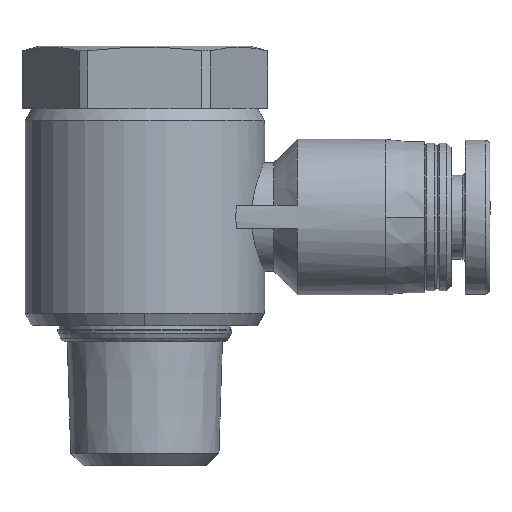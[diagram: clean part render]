
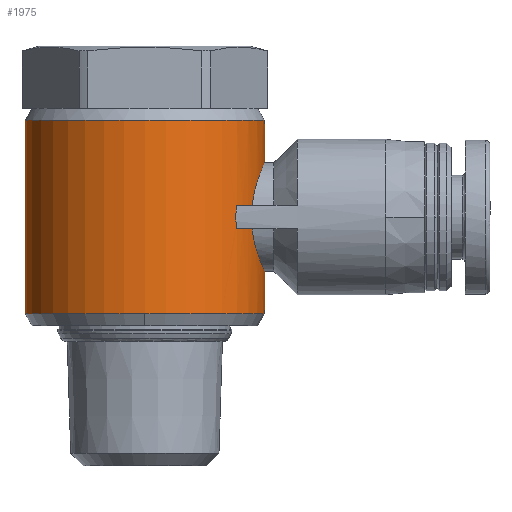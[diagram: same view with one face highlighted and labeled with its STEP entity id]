
A CAD part, front view. The second image highlights one B-rep face of the part: STEP entity #1975.
In plain terms, the highlighted cylindrical face has radius 7.7 mm (diameter 15.4 mm), a partial arc.
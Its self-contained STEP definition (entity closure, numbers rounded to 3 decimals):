
#6 = CIRCLE ( 'NONE', #594, 7.7 ) ;
#33 = B_SPLINE_CURVE_WITH_KNOTS ( 'NONE', 3,
 ( #1835, #1759, #918, #975 ),
 .UNSPECIFIED., .F., .F.,
 ( 4, 4 ),
 ( 0., 0.002 ),
 .UNSPECIFIED. ) ;
#46 = CARTESIAN_POINT ( 'NONE',  ( 7.7, -0.203, 12.5 ) ) ;
#69 = CYLINDRICAL_SURFACE ( 'NONE', #2171, 7.7 ) ;
#145 = CARTESIAN_POINT ( 'NONE',  ( 0., 0., 9.779 ) ) ;
#197 = DIRECTION ( 'NONE',  ( 1., 0., 0. ) ) ;
#214 = ORIENTED_EDGE ( 'NONE', *, *, #893, .T. ) ;
#281 = DIRECTION ( 'NONE',  ( 0., 0., 1. ) ) ;
#282 = ORIENTED_EDGE ( 'NONE', *, *, #2119, .T. ) ;
#292 = VERTEX_POINT ( 'NONE', #873 ) ;
#358 = ORIENTED_EDGE ( 'NONE', *, *, #993, .F. ) ;
#361 = CARTESIAN_POINT ( 'NONE',  ( 7.551, -1.554, 19.162 ) ) ;
#371 = CARTESIAN_POINT ( 'NONE',  ( 0., 0., 9.779 ) ) ;
#415 = CARTESIAN_POINT ( 'NONE',  ( 7.7, -0.406, 19.5 ) ) ;
#447 = CARTESIAN_POINT ( 'NONE',  ( 7.287, -2.507, 18.473 ) ) ;
#449 = DIRECTION ( 'NONE',  ( 0., 0., 1. ) ) ;
#453 = CARTESIAN_POINT ( 'NONE',  ( 6.899, -3.419, 15.25 ) ) ;
#471 = CIRCLE ( 'NONE', #2035, 7.7 ) ;
#507 = CARTESIAN_POINT ( 'NONE',  ( 6.921, -3.375, 15.053 ) ) ;
#522 = CARTESIAN_POINT ( 'NONE',  ( -7.7, 0., 22.221 ) ) ;
#535 = AXIS2_PLACEMENT_3D ( 'NONE', #371, #281, #197 ) ;
#539 = DIRECTION ( 'NONE',  ( 0., 0., 1. ) ) ;
#544 = CARTESIAN_POINT ( 'NONE',  ( 6.942, -3.332, 17.144 ) ) ;
#552 = DIRECTION ( 'NONE',  ( 0., 0., 1. ) ) ;
#564 = EDGE_CURVE ( 'NONE', #2552, #2480, #1888, .T. ) ;
#588 = VERTEX_POINT ( 'NONE', #2197 ) ;
#594 = AXIS2_PLACEMENT_3D ( 'NONE', #2178, #2166, #2131 ) ;
#617 = VERTEX_POINT ( 'NONE', #1977 ) ;
#654 = VECTOR ( 'NONE', #539, 1000. ) ;
#667 = CARTESIAN_POINT ( 'NONE',  ( 7.7, 0., 9.779 ) ) ;
#682 = CARTESIAN_POINT ( 'NONE',  ( 7.668, -0.798, 19.431 ) ) ;
#685 = EDGE_CURVE ( 'NONE', #1696, #617, #836, .T. ) ;
#686 = CARTESIAN_POINT ( 'NONE',  ( 6.95, -3.316, 14.862 ) ) ;
#702 = CARTESIAN_POINT ( 'NONE',  ( 7.47, -1.895, 18.969 ) ) ;
#750 = CARTESIAN_POINT ( 'NONE',  ( 7.019, -3.167, 14.497 ) ) ;
#761 = AXIS2_PLACEMENT_3D ( 'NONE', #2107, #2124, #2081 ) ;
#780 = CARTESIAN_POINT ( 'NONE',  ( 7.192, -2.754, 13.831 ) ) ;
#836 = CIRCLE ( 'NONE', #535, 7.7 ) ;
#873 = CARTESIAN_POINT ( 'NONE',  ( 5.904, -4.943, 15.25 ) ) ;
#885 = CARTESIAN_POINT ( 'NONE',  ( 7.145, -2.872, 13.99 ) ) ;
#893 = EDGE_CURVE ( 'NONE', #2969, #1696, #471, .T. ) ;
#918 = CARTESIAN_POINT ( 'NONE',  ( 5.84, -5.019, 15.75 ) ) ;
#933 = CARTESIAN_POINT ( 'NONE',  ( 7.467, -1.887, 13.046 ) ) ;
#975 = CARTESIAN_POINT ( 'NONE',  ( 5.904, -4.943, 15.25 ) ) ;
#993 = EDGE_CURVE ( 'NONE', #588, #292, #33, .T. ) ;
#1009 = EDGE_CURVE ( 'NONE', #2627, #2375, #2613, .T. ) ;
#1011 = ORIENTED_EDGE ( 'NONE', *, *, #2031, .T. ) ;
#1063 = CARTESIAN_POINT ( 'NONE',  ( 7.015, -3.183, 17.509 ) ) ;
#1067 = CARTESIAN_POINT ( 'NONE',  ( 7.286, -2.496, 13.539 ) ) ;
#1086 = ORIENTED_EDGE ( 'NONE', *, *, #564, .T. ) ;
#1090 = CARTESIAN_POINT ( 'NONE',  ( 7.423, -2.051, 13.157 ) ) ;
#1103 = CARTESIAN_POINT ( 'NONE',  ( 7.333, -2.356, 13.404 ) ) ;
#1126 = VECTOR ( 'NONE', #552, 1000. ) ;
#1141 = EDGE_CURVE ( 'NONE', #2149, #2447, #1803, .T. ) ;
#1183 = CARTESIAN_POINT ( 'NONE',  ( 7.546, -1.545, 12.853 ) ) ;
#1203 = CARTESIAN_POINT ( 'NONE',  ( 7.58, -1.365, 12.771 ) ) ;
#1214 = LINE ( 'NONE', #2922, #1126 ) ;
#1266 = CARTESIAN_POINT ( 'NONE',  ( 7.639, -0.989, 12.637 ) ) ;
#1306 = LINE ( 'NONE', #667, #654 ) ;
#1312 = CARTESIAN_POINT ( 'NONE',  ( 7.692, -0.402, 12.517 ) ) ;
#1322 = CARTESIAN_POINT ( 'NONE',  ( 7.661, -0.795, 12.586 ) ) ;
#1337 = EDGE_CURVE ( 'NONE', #2375, #2552, #1214, .T. ) ;
#1338 = CARTESIAN_POINT ( 'NONE',  ( 7.7, 0., 12.5 ) ) ;
#1343 = FACE_OUTER_BOUND ( 'NONE', #1699, .T. ) ;
#1411 = CARTESIAN_POINT ( 'NONE',  ( -7.7, 0., 9.779 ) ) ;
#1444 = EDGE_CURVE ( 'NONE', #2969, #2480, #2139, .T. ) ;
#1483 = CARTESIAN_POINT ( 'NONE',  ( 6.899, -3.419, 16.75 ) ) ;
#1510 = DIRECTION ( 'NONE',  ( 0., 0., -1. ) ) ;
#1511 = ORIENTED_EDGE ( 'NONE', *, *, #685, .T. ) ;
#1527 = CARTESIAN_POINT ( 'NONE',  ( 7.7, 0., 12.5 ) ) ;
#1532 = CARTESIAN_POINT ( 'NONE',  ( 7.7, 0., 19.5 ) ) ;
#1567 = CARTESIAN_POINT ( 'NONE',  ( 6.899, -3.419, 16.75 ) ) ;
#1582 = ORIENTED_EDGE ( 'NONE', *, *, #1141, .T. ) ;
#1607 = AXIS2_PLACEMENT_3D ( 'NONE', #2930, #1510, #1743 ) ;
#1618 = CARTESIAN_POINT ( 'NONE',  ( 0., -7.7, 9.779 ) ) ;
#1679 = CIRCLE ( 'NONE', #1607, 7.7 ) ;
#1696 = VERTEX_POINT ( 'NONE', #1618 ) ;
#1699 = EDGE_LOOP ( 'NONE', ( #2721, #214, #1511, #282, #1582, #2260, #358, #1011, #2326, #2932, #1086 ) ) ;
#1743 = DIRECTION ( 'NONE',  ( 1., 0., 0. ) ) ;
#1759 = CARTESIAN_POINT ( 'NONE',  ( 5.84, -5.019, 16.25 ) ) ;
#1793 = EDGE_CURVE ( 'NONE', #2447, #292, #1679, .T. ) ;
#1803 = B_SPLINE_CURVE_WITH_KNOTS ( 'NONE', 3,
 ( #1338, #46, #1312, #1322, #1266, #1203, #1183, #933, #1090, #1103, #1067, #780, #885, #1847, #750, #686, #507, #453 ),
 .UNSPECIFIED., .F., .F.,
 ( 4, 2, 2, 2, 2, 2, 2, 2, 4 ),
 ( 0.005, 0.005, 0.006, 0.007, 0.007, 0.008, 0.008, 0.009, 0.01 ),
 .UNSPECIFIED. ) ;
#1835 = CARTESIAN_POINT ( 'NONE',  ( 5.904, -4.943, 16.75 ) ) ;
#1847 = CARTESIAN_POINT ( 'NONE',  ( 7.059, -3.078, 14.323 ) ) ;
#1888 = CIRCLE ( 'NONE', #761, 7.7 ) ;
#1975 = ADVANCED_FACE ( '44', ( #1343 ), #69, .T. ) ;
#1977 = CARTESIAN_POINT ( 'NONE',  ( 7.7, 0., 9.779 ) ) ;
#2031 = EDGE_CURVE ( 'NONE', #588, #2627, #6, .T. ) ;
#2035 = AXIS2_PLACEMENT_3D ( 'NONE', #2703, #3005, #3069 ) ;
#2036 = CARTESIAN_POINT ( 'NONE',  ( 7.7, 0., 19.5 ) ) ;
#2059 = CARTESIAN_POINT ( 'NONE',  ( 6.899, -3.419, 15.25 ) ) ;
#2081 = DIRECTION ( 'NONE',  ( 1., 0., 0. ) ) ;
#2100 = CARTESIAN_POINT ( 'NONE',  ( 7.19, -2.766, 18.181 ) ) ;
#2107 = CARTESIAN_POINT ( 'NONE',  ( 0., 0., 22.221 ) ) ;
#2119 = EDGE_CURVE ( 'NONE', #617, #2149, #1306, .T. ) ;
#2124 = DIRECTION ( 'NONE',  ( 0., 0., -1. ) ) ;
#2131 = DIRECTION ( 'NONE',  ( 1., 0., 0. ) ) ;
#2139 = LINE ( 'NONE', #1411, #2686 ) ;
#2149 = VERTEX_POINT ( 'NONE', #1527 ) ;
#2166 = DIRECTION ( 'NONE',  ( 0., 0., 1. ) ) ;
#2169 = DIRECTION ( 'NONE',  ( 0., 0., 1. ) ) ;
#2171 = AXIS2_PLACEMENT_3D ( 'NONE', #145, #449, #2199 ) ;
#2178 = CARTESIAN_POINT ( 'NONE',  ( 0., 0., 16.75 ) ) ;
#2197 = CARTESIAN_POINT ( 'NONE',  ( 5.904, -4.943, 16.75 ) ) ;
#2199 = DIRECTION ( 'NONE',  ( 1., 0., 0. ) ) ;
#2260 = ORIENTED_EDGE ( 'NONE', *, *, #1793, .T. ) ;
#2326 = ORIENTED_EDGE ( 'NONE', *, *, #1009, .T. ) ;
#2375 = VERTEX_POINT ( 'NONE', #2036 ) ;
#2447 = VERTEX_POINT ( 'NONE', #2059 ) ;
#2480 = VERTEX_POINT ( 'NONE', #522 ) ;
#2552 = VERTEX_POINT ( 'NONE', #2974 ) ;
#2613 = B_SPLINE_CURVE_WITH_KNOTS ( 'NONE', 3,
 ( #1483, #544, #1063, #2100, #447, #702, #361, #682, #415, #1532 ),
 .UNSPECIFIED., .F., .F.,
 ( 4, 2, 2, 2, 4 ),
 ( -0.005, -0.004, -0.002, -0.001, 0. ),
 .UNSPECIFIED. ) ;
#2627 = VERTEX_POINT ( 'NONE', #1567 ) ;
#2686 = VECTOR ( 'NONE', #2169, 1000. ) ;
#2703 = CARTESIAN_POINT ( 'NONE',  ( 0., 0., 9.779 ) ) ;
#2721 = ORIENTED_EDGE ( 'NONE', *, *, #1444, .F. ) ;
#2865 = CARTESIAN_POINT ( 'NONE',  ( -7.7, 0., 9.779 ) ) ;
#2922 = CARTESIAN_POINT ( 'NONE',  ( 7.7, 0., 9.779 ) ) ;
#2930 = CARTESIAN_POINT ( 'NONE',  ( 0., 0., 15.25 ) ) ;
#2932 = ORIENTED_EDGE ( 'NONE', *, *, #1337, .T. ) ;
#2969 = VERTEX_POINT ( 'NONE', #2865 ) ;
#2974 = CARTESIAN_POINT ( 'NONE',  ( 7.7, 0., 22.221 ) ) ;
#3005 = DIRECTION ( 'NONE',  ( 0., 0., 1. ) ) ;
#3069 = DIRECTION ( 'NONE',  ( 1., 0., 0. ) ) ;
